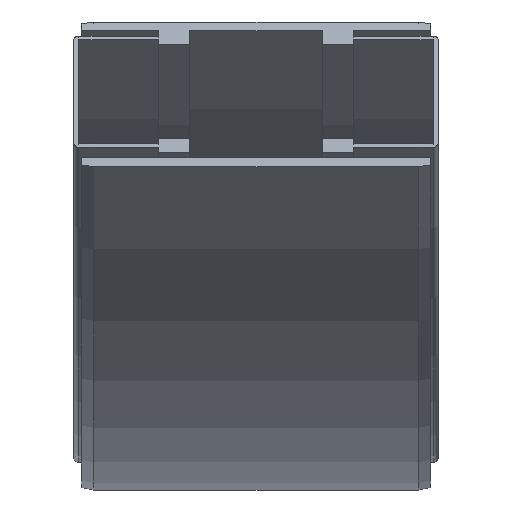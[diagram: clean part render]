
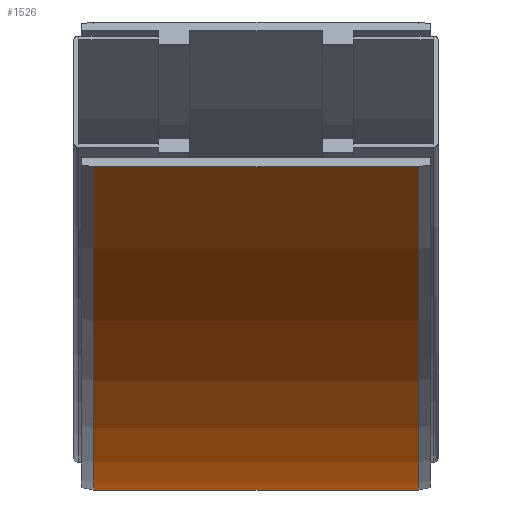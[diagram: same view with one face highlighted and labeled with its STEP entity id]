
A CAD part, left-side view. The second image highlights one B-rep face of the part: STEP entity #1526.
In plain terms, the highlighted cylindrical face has radius 442.5 mm (diameter 885 mm), a partial arc.
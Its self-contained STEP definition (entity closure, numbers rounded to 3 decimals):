
#80=CYLINDRICAL_SURFACE('',#1643,442.5);
#149=FACE_OUTER_BOUND('',#236,.T.);
#236=EDGE_LOOP('',(#1052,#1053,#1054,#1055));
#323=CIRCLE('',#1633,442.5);
#328=CIRCLE('',#1642,442.5);
#400=LINE('',#2215,#526);
#401=LINE('',#2216,#527);
#526=VECTOR('',#1808,10.);
#527=VECTOR('',#1809,10.);
#643=VERTEX_POINT('',#2183);
#644=VERTEX_POINT('',#2185);
#652=VERTEX_POINT('',#2209);
#653=VERTEX_POINT('',#2211);
#799=EDGE_CURVE('',#643,#644,#323,.T.);
#813=EDGE_CURVE('',#652,#653,#328,.T.);
#814=EDGE_CURVE('',#643,#652,#400,.T.);
#815=EDGE_CURVE('',#644,#653,#401,.T.);
#1052=ORIENTED_EDGE('',*,*,#814,.T.);
#1053=ORIENTED_EDGE('',*,*,#813,.T.);
#1054=ORIENTED_EDGE('',*,*,#815,.F.);
#1055=ORIENTED_EDGE('',*,*,#799,.F.);
#1526=ADVANCED_FACE('',(#149),#80,.T.);
#1633=AXIS2_PLACEMENT_3D('',#2186,#1777,#1778);
#1642=AXIS2_PLACEMENT_3D('',#2213,#1804,#1805);
#1643=AXIS2_PLACEMENT_3D('',#2214,#1806,#1807);
#1777=DIRECTION('center_axis',(0.,1.,0.));
#1778=DIRECTION('ref_axis',(0.,0.,-1.));
#1804=DIRECTION('center_axis',(0.,1.,0.));
#1805=DIRECTION('ref_axis',(0.,0.,-1.));
#1806=DIRECTION('center_axis',(0.,1.,0.));
#1807=DIRECTION('ref_axis',(0.,0.,-1.));
#1808=DIRECTION('',(0.,-1.,0.));
#1809=DIRECTION('',(0.,-1.,0.));
#2183=CARTESIAN_POINT('',(0.,65.,-42.5));
#2185=CARTESIAN_POINT('',(-312.895,65.,87.105));
#2186=CARTESIAN_POINT('Origin',(0.,65.,
400.));
#2209=CARTESIAN_POINT('',(0.,-65.,-42.5));
#2211=CARTESIAN_POINT('',(-312.895,-65.,87.105));
#2213=CARTESIAN_POINT('Origin',(0.,-65.,
400.));
#2214=CARTESIAN_POINT('Origin',(0.,0.,400.));
#2215=CARTESIAN_POINT('',(0.,65.,-42.5));
#2216=CARTESIAN_POINT('',(-312.895,65.,87.105));
